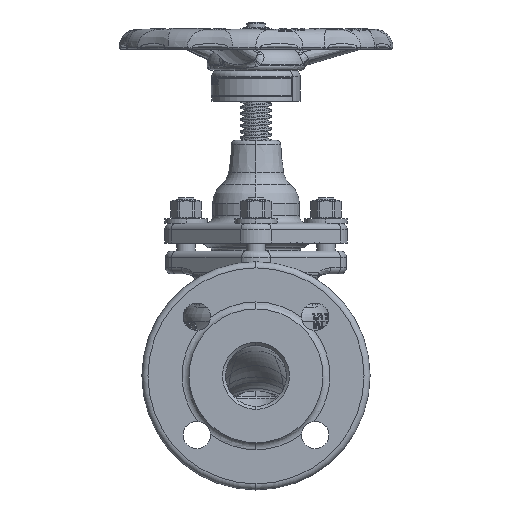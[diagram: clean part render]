
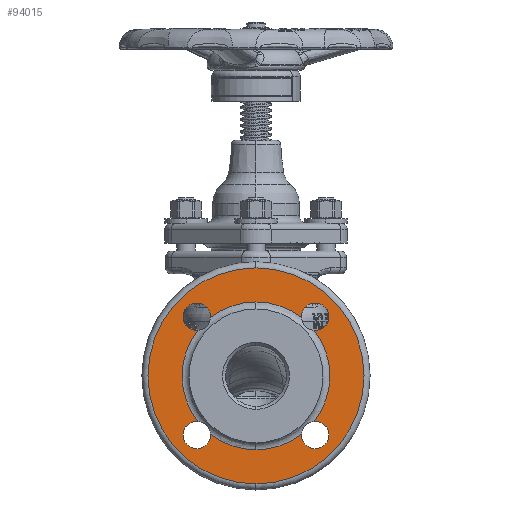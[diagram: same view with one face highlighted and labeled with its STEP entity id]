
A CAD part, left-side view. The second image highlights one B-rep face of the part: STEP entity #94015.
In plain terms, the highlighted planar face has unit normal (-1, 0, 0).
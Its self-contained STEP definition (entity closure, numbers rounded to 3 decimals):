
#17919=CARTESIAN_POINT('',(-97.,38.283,-29.911));
#17957=CARTESIAN_POINT('',(-97.,29.911,-38.283));
#17959=CARTESIAN_POINT('',(-97.,29.911,38.283));
#17997=CARTESIAN_POINT('',(-97.,38.283,29.911));
#18008=CARTESIAN_POINT('',(-97.,0.,0.));
#18009=DIRECTION('',(1.,0.,0.));
#18010=DIRECTION('',(0.,0.,-1.));
#18011=AXIS2_PLACEMENT_3D('',#18008,#18009,#18010);
#18013=CARTESIAN_POINT('',(-97.,0.,0.));
#18014=DIRECTION('',(1.,0.,0.));
#18015=DIRECTION('',(0.,0.,1.));
#18016=AXIS2_PLACEMENT_3D('',#18013,#18014,#18015);
#18018=CARTESIAN_POINT('',(-97.,-38.891,38.891));
#18019=DIRECTION('',(-1.,0.,0.));
#18020=DIRECTION('',(0.,-1.,0.));
#18021=AXIS2_PLACEMENT_3D('',#18018,#18019,#18020);
#18023=CARTESIAN_POINT('',(-97.,-38.891,38.891));
#18024=DIRECTION('',(-1.,0.,0.));
#18025=DIRECTION('',(0.,1.,0.));
#18026=AXIS2_PLACEMENT_3D('',#18023,#18024,#18025);
#18028=CARTESIAN_POINT('',(-97.,0.,0.));
#18029=DIRECTION('',(1.,0.,0.));
#18030=DIRECTION('',(0.,0.,1.));
#18031=AXIS2_PLACEMENT_3D('',#18028,#18029,#18030);
#18033=CARTESIAN_POINT('',(-97.,0.,0.));
#18034=DIRECTION('',(-1.,0.,0.));
#18035=DIRECTION('',(0.,0.,1.));
#18036=AXIS2_PLACEMENT_3D('',#18033,#18034,#18035);
#18038=CARTESIAN_POINT('',(-97.,38.891,38.891));
#18039=DIRECTION('',(-1.,0.,0.));
#18040=DIRECTION('',(0.,-0.998,-0.068));
#18041=AXIS2_PLACEMENT_3D('',#18038,#18039,#18040);
#18043=CARTESIAN_POINT('',(-97.,38.891,38.891));
#18044=DIRECTION('',(-1.,0.,0.));
#18045=DIRECTION('',(0.,-1.,0.));
#18046=AXIS2_PLACEMENT_3D('',#18043,#18044,#18045);
#18048=CARTESIAN_POINT('',(-97.,38.891,38.891));
#18049=DIRECTION('',(-1.,0.,0.));
#18050=DIRECTION('',(0.,1.,0.));
#18051=AXIS2_PLACEMENT_3D('',#18048,#18049,#18050);
#18053=CARTESIAN_POINT('',(-97.,0.,0.));
#18054=DIRECTION('',(-1.,0.,0.));
#18055=DIRECTION('',(0.,0.788,0.616));
#18056=AXIS2_PLACEMENT_3D('',#18053,#18054,#18055);
#18058=CARTESIAN_POINT('',(-97.,38.891,-38.891));
#18059=DIRECTION('',(-1.,0.,0.));
#18060=DIRECTION('',(0.,-0.068,0.998));
#18061=AXIS2_PLACEMENT_3D('',#18058,#18059,#18060);
#18063=CARTESIAN_POINT('',(-97.,38.891,-38.891));
#18064=DIRECTION('',(-1.,0.,0.));
#18065=DIRECTION('',(0.,1.,0.));
#18066=AXIS2_PLACEMENT_3D('',#18063,#18064,#18065);
#18068=CARTESIAN_POINT('',(-97.,38.891,-38.891));
#18069=DIRECTION('',(-1.,0.,0.));
#18070=DIRECTION('',(0.,-1.,0.));
#18071=AXIS2_PLACEMENT_3D('',#18068,#18069,#18070);
#18073=CARTESIAN_POINT('',(-97.,0.,0.));
#18074=DIRECTION('',(-1.,0.,0.));
#18075=DIRECTION('',(0.,0.616,-0.788));
#18076=AXIS2_PLACEMENT_3D('',#18073,#18074,#18075);
#18078=CARTESIAN_POINT('',(-97.,0.,0.));
#18079=DIRECTION('',(1.,0.,0.));
#18080=DIRECTION('',(0.,-0.616,-0.788));
#18081=AXIS2_PLACEMENT_3D('',#18078,#18079,#18080);
#18083=CARTESIAN_POINT('',(-97.,-38.891,-38.891));
#18084=DIRECTION('',(-1.,0.,0.));
#18085=DIRECTION('',(0.,0.998,0.068));
#18086=AXIS2_PLACEMENT_3D('',#18083,#18084,#18085);
#18088=CARTESIAN_POINT('',(-97.,-38.891,-38.891));
#18089=DIRECTION('',(-1.,0.,0.));
#18090=DIRECTION('',(0.,1.,0.));
#18091=AXIS2_PLACEMENT_3D('',#18088,#18089,#18090);
#18093=CARTESIAN_POINT('',(-97.,-38.891,-38.891));
#18094=DIRECTION('',(-1.,0.,0.));
#18095=DIRECTION('',(0.,-1.,0.));
#18096=AXIS2_PLACEMENT_3D('',#18093,#18094,#18095);
#18098=CARTESIAN_POINT('',(-97.,0.,0.));
#18099=DIRECTION('',(1.,0.,0.));
#18100=DIRECTION('',(0.,-0.788,0.616));
#18101=AXIS2_PLACEMENT_3D('',#18098,#18099,#18100);
#18103=CARTESIAN_POINT('',(-97.,-38.891,38.891));
#18104=DIRECTION('',(-1.,0.,0.));
#18105=DIRECTION('',(0.,0.068,-0.998));
#18106=AXIS2_PLACEMENT_3D('',#18103,#18104,#18105);
#29462=CARTESIAN_POINT('',(-97.,-38.283,29.911));
#29502=CARTESIAN_POINT('',(-97.,-29.911,-38.283));
#43470=CARTESIAN_POINT('',(-97.,0.,-71.));
#43471=CARTESIAN_POINT('',(-97.,0.,71.));
#43472=VERTEX_POINT('',#43470);
#43473=VERTEX_POINT('',#43471);
#45750=CARTESIAN_POINT('',(-97.,0.,48.583));
#45752=VERTEX_POINT('',#45750);
#45754=CARTESIAN_POINT('',(-97.,0.,-48.583));
#45756=VERTEX_POINT('',#45754);
#45823=VERTEX_POINT('',#17959);
#45824=VERTEX_POINT('',#17997);
#45825=CARTESIAN_POINT('',(-97.,29.891,38.891));
#45826=CARTESIAN_POINT('',(-97.,47.891,38.891));
#45827=VERTEX_POINT('',#45825);
#45828=VERTEX_POINT('',#45826);
#45833=VERTEX_POINT('',#17919);
#45834=VERTEX_POINT('',#17957);
#45835=CARTESIAN_POINT('',(-97.,29.891,-38.891));
#45836=VERTEX_POINT('',#45835);
#45837=CARTESIAN_POINT('',(-97.,47.891,-38.891));
#45838=VERTEX_POINT('',#45837);
#45843=CARTESIAN_POINT('',(-97.,-47.891,-38.891));
#45844=CARTESIAN_POINT('',(-97.,-38.283,-29.911));
#45845=VERTEX_POINT('',#45843);
#45846=VERTEX_POINT('',#45844);
#45847=CARTESIAN_POINT('',(-97.,-29.891,-38.891));
#45848=VERTEX_POINT('',#45847);
#45853=VERTEX_POINT('',#29502);
#45854=CARTESIAN_POINT('',(-97.,-47.891,38.891));
#45855=CARTESIAN_POINT('',(-97.,-29.891,38.891));
#45856=VERTEX_POINT('',#45854);
#45857=VERTEX_POINT('',#45855);
#45858=CARTESIAN_POINT('',(-97.,-29.911,38.283));
#45859=VERTEX_POINT('',#45858);
#45864=VERTEX_POINT('',#29462);
#93971=CARTESIAN_POINT('',(-97.,0.,0.));
#93972=DIRECTION('',(-1.,0.,0.));
#93973=DIRECTION('',(0.,0.,1.));
#93974=AXIS2_PLACEMENT_3D('',#93971,#93972,#93973);
#93975=PLANE('',#93974);
#93977=ORIENTED_EDGE('',*,*,#93976,.T.);
#93979=ORIENTED_EDGE('',*,*,#93978,.T.);
#93980=EDGE_LOOP('',(#93977,#93979));
#93981=FACE_OUTER_BOUND('',#93980,.F.);
#93983=ORIENTED_EDGE('',*,*,#93982,.T.);
#93985=ORIENTED_EDGE('',*,*,#93984,.T.);
#93987=ORIENTED_EDGE('',*,*,#93986,.F.);
#93988=ORIENTED_EDGE('',*,*,#93940,.T.);
#93990=ORIENTED_EDGE('',*,*,#93989,.T.);
#93992=ORIENTED_EDGE('',*,*,#93991,.T.);
#93994=ORIENTED_EDGE('',*,*,#93993,.T.);
#93995=ORIENTED_EDGE('',*,*,#93936,.T.);
#93996=ORIENTED_EDGE('',*,*,#93966,.T.);
#93998=ORIENTED_EDGE('',*,*,#93997,.T.);
#93999=ORIENTED_EDGE('',*,*,#93958,.T.);
#94000=ORIENTED_EDGE('',*,*,#93947,.T.);
#94002=ORIENTED_EDGE('',*,*,#94001,.F.);
#94004=ORIENTED_EDGE('',*,*,#94003,.T.);
#94006=ORIENTED_EDGE('',*,*,#94005,.T.);
#94008=ORIENTED_EDGE('',*,*,#94007,.T.);
#94010=ORIENTED_EDGE('',*,*,#94009,.F.);
#94012=ORIENTED_EDGE('',*,*,#94011,.T.);
#94013=EDGE_LOOP('',(#93983,#93985,#93987,#93988,#93990,#93992,#93994,#93995,
#93996,#93998,#93999,#94000,#94002,#94004,#94006,#94008,#94010,#94012));
#94014=FACE_BOUND('',#94013,.F.);
#94015=ADVANCED_FACE('',(#93981,#94014),#93975,.T.);
#18012=CIRCLE('',#18011,71.);
#18017=CIRCLE('',#18016,71.);
#18022=CIRCLE('',#18021,9.);
#18027=CIRCLE('',#18026,9.);
#18032=CIRCLE('',#18031,48.583);
#18037=CIRCLE('',#18036,48.583);
#18042=CIRCLE('',#18041,9.);
#18047=CIRCLE('',#18046,9.);
#18052=CIRCLE('',#18051,9.);
#18057=CIRCLE('',#18056,48.583);
#18062=CIRCLE('',#18061,9.);
#18067=CIRCLE('',#18066,9.);
#18072=CIRCLE('',#18071,9.);
#18077=CIRCLE('',#18076,48.583);
#18082=CIRCLE('',#18081,48.583);
#18087=CIRCLE('',#18086,9.);
#18092=CIRCLE('',#18091,9.);
#18097=CIRCLE('',#18096,9.);
#18102=CIRCLE('',#18101,48.583);
#18107=CIRCLE('',#18106,9.);
#93936=EDGE_CURVE('',#45824,#45833,#18057,.T.);
#93940=EDGE_CURVE('',#45752,#45823,#18037,.T.);
#93947=EDGE_CURVE('',#45834,#45756,#18077,.T.);
#93958=EDGE_CURVE('',#45836,#45834,#18072,.T.);
#93966=EDGE_CURVE('',#45833,#45838,#18062,.T.);
#93976=EDGE_CURVE('',#43472,#43473,#18012,.T.);
#93978=EDGE_CURVE('',#43473,#43472,#18017,.T.);
#93982=EDGE_CURVE('',#45856,#45857,#18022,.T.);
#93984=EDGE_CURVE('',#45857,#45859,#18027,.T.);
#93986=EDGE_CURVE('',#45752,#45859,#18032,.T.);
#93989=EDGE_CURVE('',#45823,#45827,#18042,.T.);
#93991=EDGE_CURVE('',#45827,#45828,#18047,.T.);
#93993=EDGE_CURVE('',#45828,#45824,#18052,.T.);
#93997=EDGE_CURVE('',#45838,#45836,#18067,.T.);
#94001=EDGE_CURVE('',#45853,#45756,#18082,.T.);
#94003=EDGE_CURVE('',#45853,#45848,#18087,.T.);
#94005=EDGE_CURVE('',#45848,#45845,#18092,.T.);
#94007=EDGE_CURVE('',#45845,#45846,#18097,.T.);
#94009=EDGE_CURVE('',#45864,#45846,#18102,.T.);
#94011=EDGE_CURVE('',#45864,#45856,#18107,.T.);
